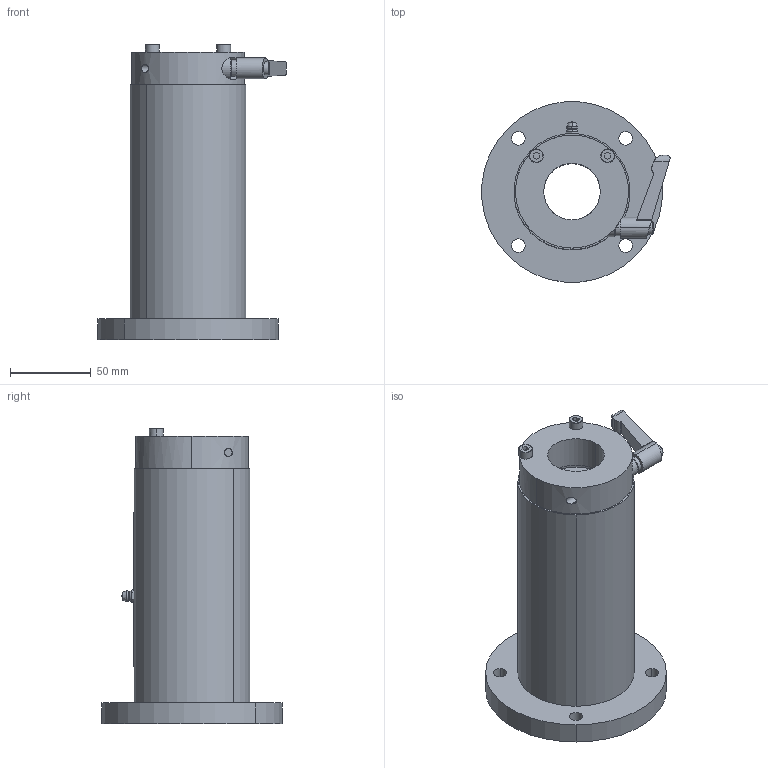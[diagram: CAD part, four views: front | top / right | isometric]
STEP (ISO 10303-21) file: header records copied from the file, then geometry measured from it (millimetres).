
FILE_DESCRIPTION (( 'STEP AP214' ), '1' );
FILE_NAME ('LFW35-OH-C.STEP', '2023-06-27T02:06:43', ( '' ), ( '' ), 'SwSTEP 2.0', 'SolidWorks 2019', '' );
FILE_SCHEMA (( 'AUTOMOTIVE_DESIGN' ));
Length unit declared in the file: millimetre
Products named in the file (3): “ÁSCK3520CO-S5.5; LFW35-OH-C; LFW35-OH
Assembly tree (2 placements, depth 2):
  LFW35-OH-C
    LFW35-OH
    “ÁSCK3520CO-S5.5
Bounding box: 116.49 x 111.57 x 183 mm (x, y, z)
Volume: 614013.3 mm3; surface area: 102510.2 mm2
Topology: 3 solids, 9 shells, 226 faces, 563 edges, 353 vertices
Faces by surface type: cylinder 80, plane 67, bspline 47, cone 20, torus 8, sphere 4
Entity records: 9974 total; most frequent: CARTESIAN_POINT 2256, DIRECTION 1177, ORIENTED_EDGE 1122, EDGE_CURVE 561, AXIS2_PLACEMENT_3D 497, VERTEX_POINT 352, CIRCLE 313, EDGE_LOOP 273
